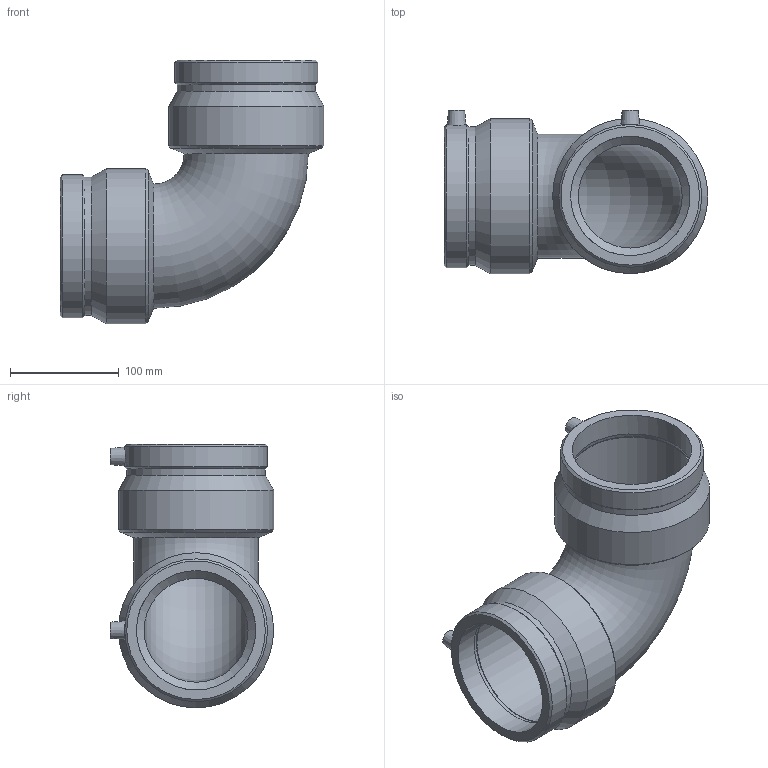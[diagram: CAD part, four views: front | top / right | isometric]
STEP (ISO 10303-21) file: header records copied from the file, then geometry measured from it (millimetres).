
FILE_DESCRIPTION(/* description */ ('PLASSON 90° ELBOW 110'),/* implementation_level */ '2;1');
FILE_NAME(/* name */ '490504110.stp',/* time_stamp */ '2026-03-22T13:12:46+02:00',/* author */ ('KIM'),/* organization */ (''),/* preprocessor_version */ 'ST-DEVELOPER v20.1',/* originating_system */ 'Autodesk Inventor 2026',/* authorisation */ '');
FILE_SCHEMA (('AUTOMOTIVE_DESIGN { 1 0 10303 214 3 1 1 }'));
Length unit declared in the file: millimetre
Products named in the file (1): 490504110
Bounding box: 243 x 150.5 x 243 mm (x, y, z)
Volume: 1325953.6 mm3; surface area: 243469.3 mm2
Topology: 1 solids, 1 shells, 44 faces, 88 edges, 54 vertices
Faces by surface type: cone 18, cylinder 14, plane 10, torus 2
Full cylindrical faces by diameter (mm): 4 x2, 10 x2, 110 x4, 127.613 x2, 131.56 x2, 143 x2
Entity records: 1269 total; most frequent: CARTESIAN_POINT 275, DIRECTION 220, ORIENTED_EDGE 176, AXIS2_PLACEMENT_3D 95, EDGE_CURVE 88, EDGE_LOOP 54, VERTEX_POINT 54, CIRCLE 50
